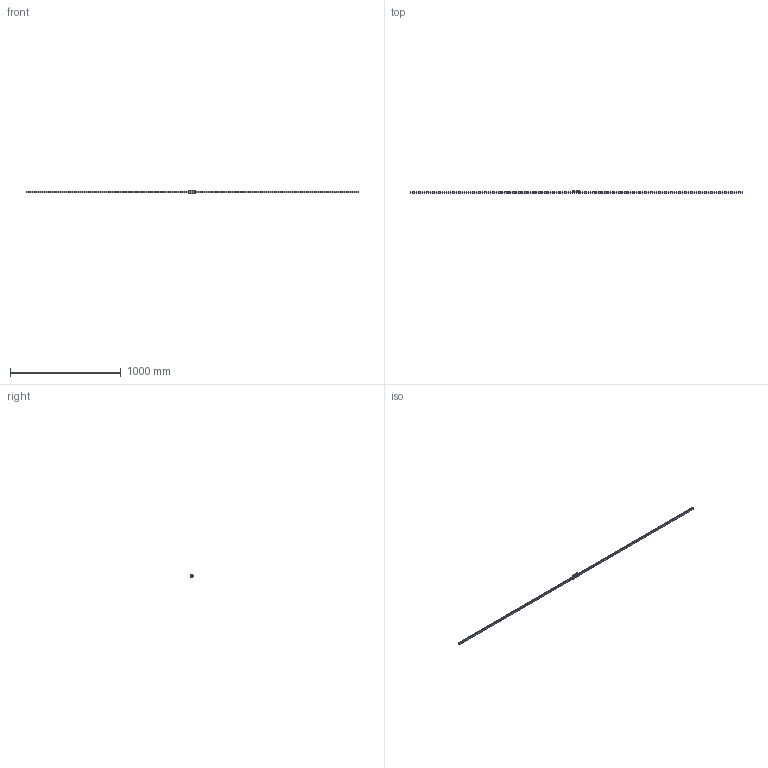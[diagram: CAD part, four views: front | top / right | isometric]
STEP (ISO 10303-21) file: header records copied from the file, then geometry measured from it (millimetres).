
FILE_DESCRIPTION(/* description */ ('STEP AP214'),/* implementation_level */ '2;1');
FILE_NAME(/* name */ 'HDR15V1SS-3000L_G30_0_PB107_1469-3_0_0_01',/* time_stamp */ '2023-06-30T13:00:07+02:00',/* author */ ('License CC BY-ND 4.0'),/* organization */ ('CADENAS'),/* preprocessor_version */ 'ST-DEVELOPER v19.3',/* originating_system */ 'PARTsolutions',/* authorisation */ ' ');
FILE_SCHEMA (('AUTOMOTIVE_DESIGN {1 0 10303 214 3 1 1}'));
Length unit declared in the file: millimetre
Products named in the file (4): HDR15V1SS-3000L_G30_0_PB107_1469-3_0_0_01; hsr_ftht_PB107_grease_nipple_joint; HDR15VSSPB1071 Slider; HDR15V1300030 Rail
Assembly tree (3 placements, depth 2):
  HDR15V1SS-3000L_G30_0_PB107_1469-3_0_0_01
    hsr_ftht_PB107_grease_nipple_joint
    HDR15VSSPB1071 Slider
    HDR15V1300030 Rail
Bounding box: 3000 x 24 x 34 mm (x, y, z)
Volume: 607519 mm3; surface area: 218324.5 mm2
Topology: 3 solids, 3 shells, 335 faces, 796 edges, 524 vertices
Faces by surface type: cylinder 169, plane 153, cone 12, sphere 1
Full cylindrical faces by diameter (mm): 2.9 x4, 3 x1, 3.242 x6, 3.5 x3, 4.5 x51, 7.5 x50
Entity records: 9387 total; most frequent: DIRECTION 1682, CARTESIAN_POINT 1521, ORIENTED_EDGE 1320, AXIS2_PLACEMENT_3D 683, EDGE_CURVE 660, FACE_BOUND 626, EDGE_LOOP 620, VERTEX_POINT 522
